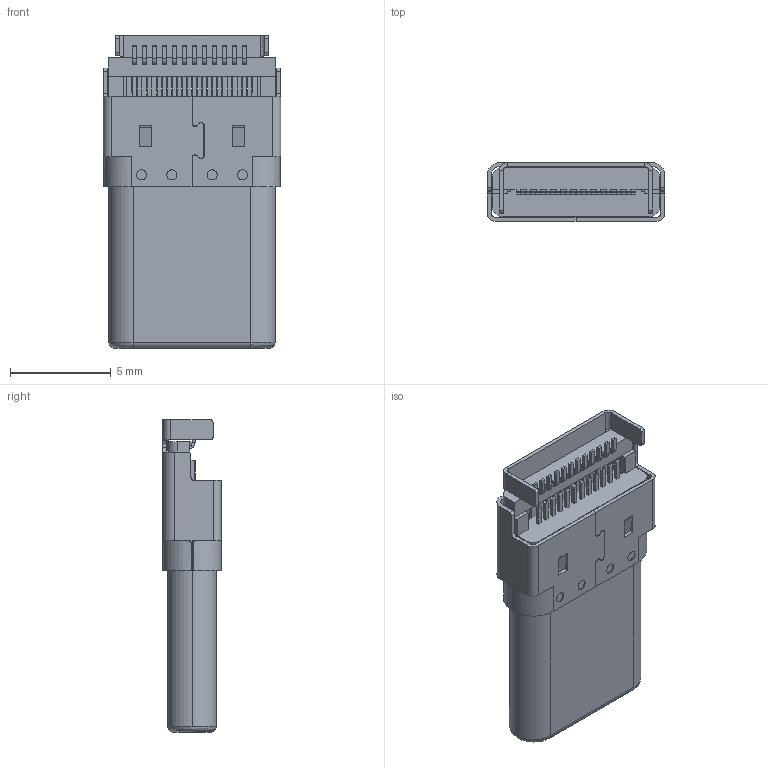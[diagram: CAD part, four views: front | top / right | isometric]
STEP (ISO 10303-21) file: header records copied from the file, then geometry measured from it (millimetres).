
FILE_DESCRIPTION (( 'STEP AP203' ), '1' );
FILE_NAME ('GT-USB-8012A.STEP', '2023-08-17T09:22:20', ( '' ), ( '' ), 'SwSTEP 2.0', 'SolidWorks 2023', '' );
FILE_SCHEMA (( 'CONFIG_CONTROL_DESIGN' ));
Length unit declared in the file: millimetre
Products named in the file (1): GT-USB-8012A
Bounding box: 8.8 x 2.9 x 15.5 mm (x, y, z)
Surface area: 1553.1 mm2 (no closed solid volume)
Topology: 0 solids, 26 shells, 3120 faces, 8087 edges, 4992 vertices
Faces by surface type: bspline 3120
Entity records: 96475 total; most frequent: CARTESIAN_POINT 33864, ORIENTED_EDGE 16084, EDGE_CURVE 8071, DIRECTION 7179, LINE 5313, VECTOR 5313, VERTEX_POINT 4992, EDGE_LOOP 3233
